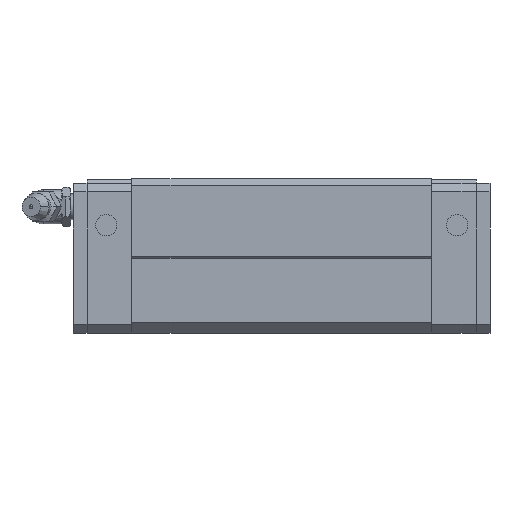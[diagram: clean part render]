
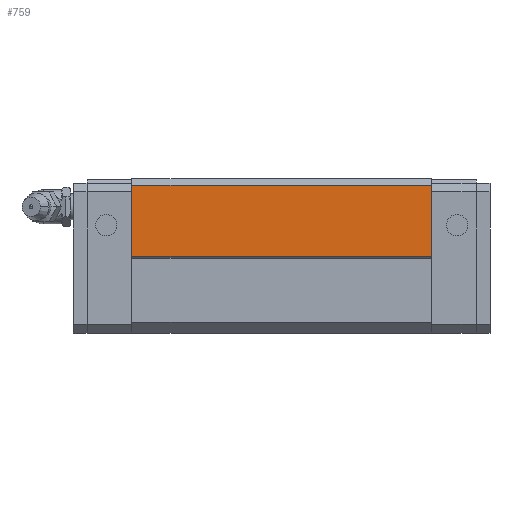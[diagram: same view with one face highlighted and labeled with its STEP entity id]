
A CAD part, front view. The second image highlights one B-rep face of the part: STEP entity #759.
In plain terms, the highlighted planar face has unit normal (0, -1, 0).
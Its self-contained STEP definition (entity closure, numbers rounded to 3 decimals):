
#698=CARTESIAN_POINT('POINT44',(83.7,-30.,
   18.));
#699=VERTEX_POINT('VERTEX44',#698);
#706=CARTESIAN_POINT('POINT45',(13.7,-30.,
   18.));
#707=VERTEX_POINT('VERTEX45',#706);
#708=CARTESIAN_POINT('POS73',(13.7,-30.,
   18.));
#709=DIRECTION('DIR108',(1.,0.,0.));
#710=VECTOR('VEC38',#709,1.);
#711=LINE('STRAIGHT38',#708,#710);
#712=EDGE_CURVE('EDGE70',#707,#699,#711,.T.);
#729=CARTESIAN_POINT('POINT46',(83.7,-30.,
   34.5));
#730=VERTEX_POINT('VERTEX46',#729);
#731=CARTESIAN_POINT('POS76',(83.7,-30.,
   18.));
#732=DIRECTION('DIR112',(0.,0.,1.));
#733=VECTOR('VEC40',#732,1.);
#734=LINE('STRAIGHT40',#731,#733);
#735=EDGE_CURVE('EDGE72',#699,#730,#734,.T.);
#736=ORIENTED_EDGE('COEDGE127',*,*,#735,.T.);
#737=CARTESIAN_POINT('POINT47',(13.7,-30.,
   34.5));
#738=VERTEX_POINT('VERTEX47',#737);
#739=CARTESIAN_POINT('POS77',(13.7,-30.,
   34.5));
#740=DIRECTION('DIR113',(1.,0.,0.));
#741=VECTOR('VEC41',#740,1.);
#742=LINE('STRAIGHT41',#739,#741);
#743=EDGE_CURVE('EDGE73',#738,#730,#742,.T.);
#744=ORIENTED_EDGE('COEDGE128',*,*,#743,.F.);
#745=CARTESIAN_POINT('POS78',(13.7,-30.,
   18.));
#746=DIRECTION('DIR114',(0.,0.,1.));
#747=VECTOR('VEC42',#746,1.);
#748=LINE('STRAIGHT42',#745,#747);
#749=EDGE_CURVE('EDGE74',#707,#738,#748,.T.);
#750=ORIENTED_EDGE('COEDGE129',*,*,#749,.F.);
#751=ORIENTED_EDGE('COEDGE130',*,*,#712,.T.);
#752=EDGE_LOOP('NONE',(#736,#744,#750,#751));
#753=FACE_BOUND('LOOP1',#752,.T.);
#754=CARTESIAN_POINT('POS79',(13.7,-30.,
   18.));
#755=DIRECTION('DIR115',(0.,-1.,0.));
#756=DIRECTION('DIR116',(1.,0.,0.));
#757=AXIS2_PLACEMENT_3D('AXIS37',#754,#755,#756);
#758=PLANE('PLANE8',#757);
#759=ADVANCED_FACE('FACE34',(#753),#758,.T.);
